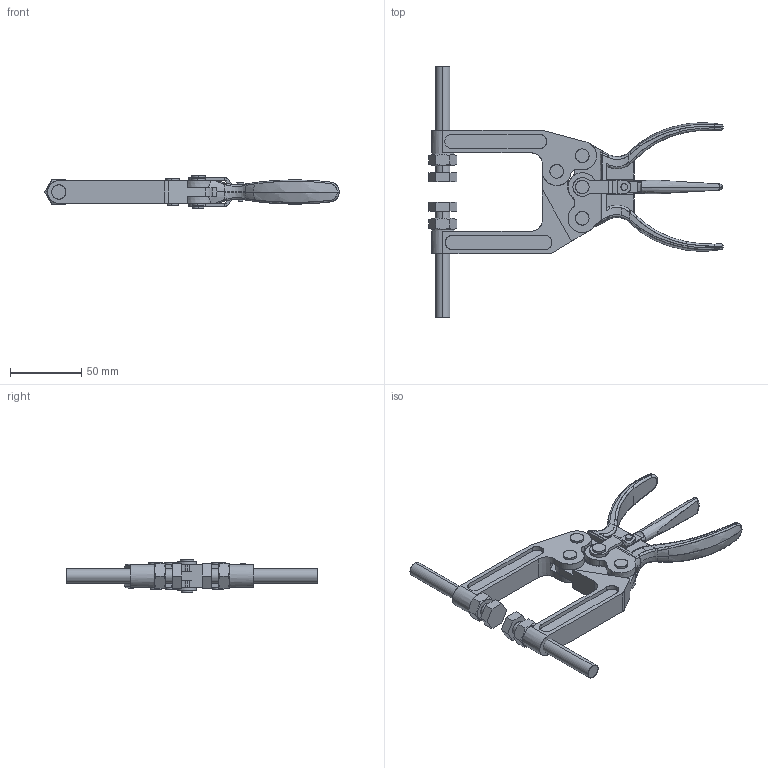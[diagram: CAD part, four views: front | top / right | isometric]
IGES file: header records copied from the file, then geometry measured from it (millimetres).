
Start section: SolidWorks IGES file using analytic representation for surfaces
Global section: file name: C:\Projetos\Grampos\Alicates\KFA-45\KFA-45-2\KFA-45-2.IGS; native system: SolidWorks 2013; preprocessor: SolidWorks 2013; author: Ricardo; date: 140904.145337; units: millimetre
Bounding box: 206.81 x 177 x 23.5 mm (x, y, z)
Surface area: 53940 mm2 (no closed solid volume)
Topology: 0 solids, 0 shells, 447 faces, 6602 edges, 6590 vertices
Faces by surface type: bspline 228, revolution 219
